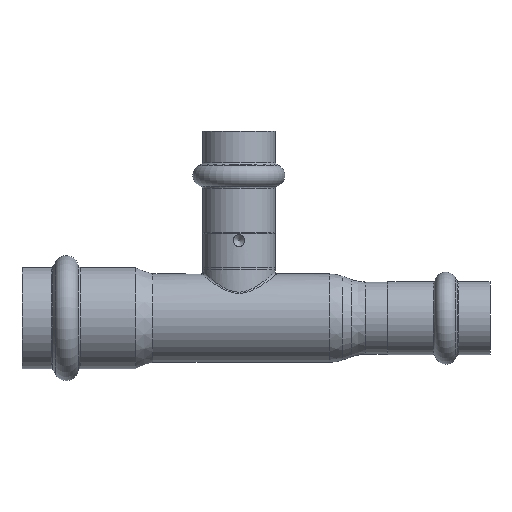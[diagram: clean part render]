
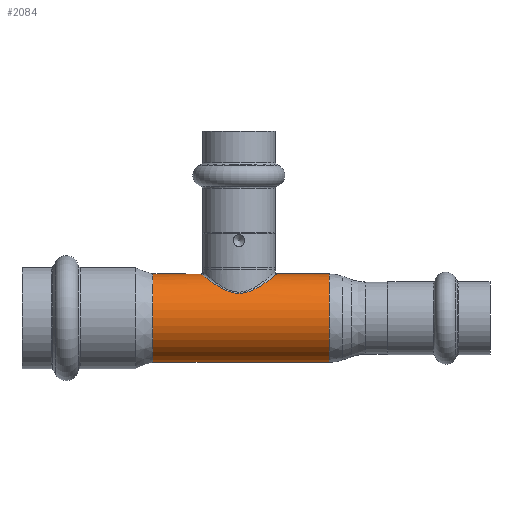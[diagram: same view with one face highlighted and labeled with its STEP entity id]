
A CAD part, front view. The second image highlights one B-rep face of the part: STEP entity #2084.
In plain terms, the highlighted cylindrical face has radius 11 mm (diameter 22 mm), a full revolution.
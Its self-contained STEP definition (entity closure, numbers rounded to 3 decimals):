
#1895=CARTESIAN_POINT('',(0.,-9.087,6.199));
#1896=VERTEX_POINT('',#1895);
#1969=CARTESIAN_POINT('',(0.,-9.087,6.199));
#1970=CARTESIAN_POINT('',(0.,-9.087,6.199));
#1971=CARTESIAN_POINT('',(0.,-9.087,6.199));
#1972=CARTESIAN_POINT('',(0.,-9.087,6.199));
#1973=CARTESIAN_POINT('',(0.378,-9.087,6.199));
#1974=CARTESIAN_POINT('',(1.132,-9.043,6.264));
#1975=CARTESIAN_POINT('',(2.22,-8.856,6.529));
#1976=CARTESIAN_POINT('',(3.248,-8.559,6.917));
#1977=CARTESIAN_POINT('',(4.51,-8.044,7.524));
#1978=CARTESIAN_POINT('',(5.8,-7.263,8.301));
#1979=CARTESIAN_POINT('',(6.786,-6.386,8.972));
#1980=CARTESIAN_POINT('',(7.53,-5.566,9.5));
#1981=CARTESIAN_POINT('',(8.168,-4.705,9.97));
#1982=CARTESIAN_POINT('',(8.758,-3.589,10.42));
#1983=CARTESIAN_POINT('',(9.241,-2.265,10.795));
#1984=CARTESIAN_POINT('',(9.51,-0.847,11.008));
#1985=CARTESIAN_POINT('',(9.51,0.729,11.008));
#1986=CARTESIAN_POINT('',(9.31,1.913,10.85));
#1987=CARTESIAN_POINT('',(9.04,2.823,10.639));
#1988=CARTESIAN_POINT('',(8.788,3.475,10.444));
#1989=CARTESIAN_POINT('',(8.512,4.05,10.233));
#1990=CARTESIAN_POINT('',(8.286,4.449,10.062));
#1991=CARTESIAN_POINT('',(7.686,5.421,9.612));
#1992=CARTESIAN_POINT('',(6.775,6.47,8.947));
#1993=CARTESIAN_POINT('',(5.451,7.471,8.089));
#1994=CARTESIAN_POINT('',(4.683,7.916,7.643));
#1995=CARTESIAN_POINT('',(3.879,8.31,7.215));
#1996=CARTESIAN_POINT('',(2.915,8.684,6.764));
#1997=CARTESIAN_POINT('',(1.862,8.927,6.428));
#1998=CARTESIAN_POINT('',(0.881,9.058,6.242));
#1999=CARTESIAN_POINT('',(-0.127,9.116,6.156));
#2000=CARTESIAN_POINT('',(-1.508,9.009,6.315));
#2001=CARTESIAN_POINT('',(-2.805,8.709,6.729));
#2002=CARTESIAN_POINT('',(-3.667,8.392,7.116));
#2003=CARTESIAN_POINT('',(-4.494,8.021,7.534));
#2004=CARTESIAN_POINT('',(-5.374,7.53,8.039));
#2005=CARTESIAN_POINT('',(-6.252,6.865,8.609));
#2006=CARTESIAN_POINT('',(-7.053,6.114,9.158));
#2007=CARTESIAN_POINT('',(-7.638,5.436,9.579));
#2008=CARTESIAN_POINT('',(-8.188,4.63,9.987));
#2009=CARTESIAN_POINT('',(-8.748,3.633,10.412));
#2010=CARTESIAN_POINT('',(-9.12,2.64,10.701));
#2011=CARTESIAN_POINT('',(-9.37,1.557,10.898));
#2012=CARTESIAN_POINT('',(-9.51,0.605,11.008));
#2013=CARTESIAN_POINT('',(-9.51,-0.726,11.008));
#2014=CARTESIAN_POINT('',(-9.311,-1.912,10.85));
#2015=CARTESIAN_POINT('',(-9.041,-2.821,10.64));
#2016=CARTESIAN_POINT('',(-8.788,-3.474,10.444));
#2017=CARTESIAN_POINT('',(-8.388,-4.31,10.138));
#2018=CARTESIAN_POINT('',(-7.898,-5.083,9.77));
#2019=CARTESIAN_POINT('',(-7.273,-5.866,9.316));
#2020=CARTESIAN_POINT('',(-6.659,-6.505,8.884));
#2021=CARTESIAN_POINT('',(-5.898,-7.145,8.376));
#2022=CARTESIAN_POINT('',(-5.074,-7.703,7.864));
#2023=CARTESIAN_POINT('',(-3.897,-8.331,7.206));
#2024=CARTESIAN_POINT('',(-2.583,-8.793,6.619));
#2025=CARTESIAN_POINT('',(-1.133,-9.044,6.263));
#2026=CARTESIAN_POINT('',(-0.378,-9.087,6.199));
#2027=CARTESIAN_POINT('',(0.,-9.087,6.199));
#2028=B_SPLINE_CURVE_WITH_KNOTS('',3,(#1969,#1970,#1971,#1972,#1973,#1974,#1975,#1976,#1977,#1978,#1979,#1980,#1981,#1982,#1983,#1984,#1985,#1986,#1987,#1988,#1989,#1990,#1991,#1992,#1993,#1994,#1995,#1996,#1997,#1998,#1999,#2000,#2001,#2002,#2003,#2004,#2005,#2006,#2007,#2008,#2009,#2010,#2011,#2012,#2013,#2014,#2015,#2016,#2017,#2018,#2019,#2020,#2021,#2022,#2023,#2024,#2025,#2026,#2027),.UNSPECIFIED.,.T.,.U.,(4,3,1,1,1,1,1,1,1,1,1,1,1,1,1,1,1,1,1,1,1,1,1,1,1,1,1,1,1,1,1,1,1,1,1,1,1,1,1,1,1,1,1,1,1,1,1,1,1,1,1,1,1,1,4),(-5.723,-5.723,-5.621,-5.518,-5.416,-5.314,-5.11,-4.956,-4.905,-4.769,-4.633,-4.531,-4.36,-4.224,-4.088,-4.02,-3.951,-3.883,-3.832,-3.815,-3.543,-3.406,-3.304,-3.27,-3.134,-2.998,-2.964,-2.861,-2.725,-2.589,-2.487,-2.453,-2.316,-2.18,-2.112,-1.976,-1.908,-1.817,-1.635,-1.601,-1.499,-1.363,-1.226,-1.158,-1.09,-1.022,-0.886,-0.818,-0.715,-0.613,-0.511,-0.409,-0.204,-0.102,0.),.UNSPECIFIED.);
#2029=EDGE_CURVE('',#1896,#1896,#2028,.T.);
#2054=CARTESIAN_POINT('',(0.535,0.,0.0));
#2055=DIRECTION('',(1.0,0.,0.0));
#2056=DIRECTION('',(0.0,1.0,0.0));
#2057=AXIS2_PLACEMENT_3D('',#2054,#2055,#2056);
#2058=CYLINDRICAL_SURFACE('',#2057,11.0);
#2059=CARTESIAN_POINT('',(-21.408,11.,0.0));
#2060=VERTEX_POINT('',#2059);
#2061=CARTESIAN_POINT('',(-21.408,0.,0.0));
#2062=DIRECTION('',(1.0,0.0,0.0));
#2063=DIRECTION('',(0.0,1.0,0.0));
#2064=AXIS2_PLACEMENT_3D('',#2061,#2062,#2063);
#2065=CIRCLE('',#2064,11.0);
#2066=EDGE_CURVE('',#2060,#2060,#2065,.T.);
#2067=ORIENTED_EDGE('',*,*,#2066,.T.);
#2068=EDGE_LOOP('',(#2067));
#2069=FACE_OUTER_BOUND('',#2068,.T.);
#2070=CARTESIAN_POINT('',(22.479,11.,0.0));
#2071=VERTEX_POINT('',#2070);
#2072=CARTESIAN_POINT('',(22.479,0.,0.0));
#2073=DIRECTION('',(1.0,0.0,0.0));
#2074=DIRECTION('',(0.0,1.0,0.0));
#2075=AXIS2_PLACEMENT_3D('',#2072,#2073,#2074);
#2076=CIRCLE('',#2075,11.);
#2077=EDGE_CURVE('',#2071,#2071,#2076,.T.);
#2078=ORIENTED_EDGE('',*,*,#2077,.F.);
#2079=EDGE_LOOP('',(#2078));
#2080=FACE_BOUND('',#2079,.T.);
#2081=ORIENTED_EDGE('',*,*,#2029,.F.);
#2082=EDGE_LOOP('',(#2081));
#2083=FACE_BOUND('',#2082,.T.);
#2084=ADVANCED_FACE('',(#2069,#2080,#2083),#2058,.T.);
